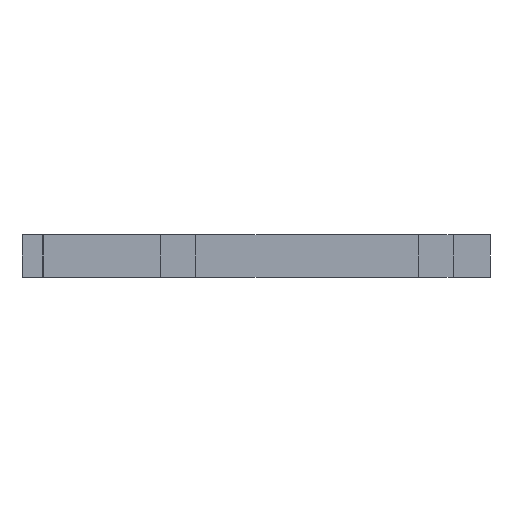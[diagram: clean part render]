
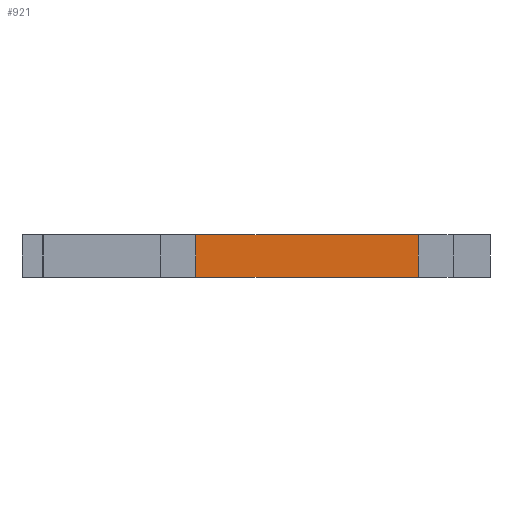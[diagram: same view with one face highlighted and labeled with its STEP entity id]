
A CAD part, left-side view. The second image highlights one B-rep face of the part: STEP entity #921.
In plain terms, the highlighted planar face has unit normal (-1, 0, 0).
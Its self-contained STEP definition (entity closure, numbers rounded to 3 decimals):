
#179 = CARTESIAN_POINT ( 'NONE',  ( -158., -92.3, 0. ) ) ;
#276 = PLANE ( 'NONE',  #1290 ) ;
#331 = VERTEX_POINT ( 'NONE', #1269 ) ;
#374 = ORIENTED_EDGE ( 'NONE', *, *, #1015, .T. ) ;
#395 = VECTOR ( 'NONE', #952, 1000. ) ;
#503 = VERTEX_POINT ( 'NONE', #1012 ) ;
#643 = EDGE_CURVE ( 'NONE', #1725, #886, #872, .T. ) ;
#678 = LINE ( 'NONE', #179, #999 ) ;
#705 = FACE_OUTER_BOUND ( 'NONE', #1644, .T. ) ;
#716 = VECTOR ( 'NONE', #1288, 1000. ) ;
#794 = EDGE_CURVE ( 'NONE', #503, #1725, #981, .T. ) ;
#811 = CARTESIAN_POINT ( 'NONE',  ( -158., -92.3, 10. ) ) ;
#812 = CARTESIAN_POINT ( 'NONE',  ( -158., -92.3, 10. ) ) ;
#840 = CARTESIAN_POINT ( 'NONE',  ( -158., -92.3, 10. ) ) ;
#872 = LINE ( 'NONE', #1600, #1568 ) ;
#881 = LINE ( 'NONE', #1268, #716 ) ;
#886 = VERTEX_POINT ( 'NONE', #1117 ) ;
#921 = ADVANCED_FACE ( 'NONE', ( #705 ), #276, .F. ) ;
#952 = DIRECTION ( 'NONE',  ( 0., -1., 0. ) ) ;
#981 = LINE ( 'NONE', #811, #395 ) ;
#999 = VECTOR ( 'NONE', #1272, 1000. ) ;
#1012 = CARTESIAN_POINT ( 'NONE',  ( -158., -40.5, 10. ) ) ;
#1015 = EDGE_CURVE ( 'NONE', #331, #886, #678, .T. ) ;
#1117 = CARTESIAN_POINT ( 'NONE',  ( -158., -92.3, 0. ) ) ;
#1241 = DIRECTION ( 'NONE',  ( 0., 0., -1. ) ) ;
#1268 = CARTESIAN_POINT ( 'NONE',  ( -158., -40.5, 10. ) ) ;
#1269 = CARTESIAN_POINT ( 'NONE',  ( -158., -40.5, 0. ) ) ;
#1272 = DIRECTION ( 'NONE',  ( 0., -1., 0. ) ) ;
#1288 = DIRECTION ( 'NONE',  ( 0., 0., -1. ) ) ;
#1290 = AXIS2_PLACEMENT_3D ( 'NONE', #840, #1672, #1241 ) ;
#1341 = ORIENTED_EDGE ( 'NONE', *, *, #794, .F. ) ;
#1369 = ORIENTED_EDGE ( 'NONE', *, *, #643, .F. ) ;
#1480 = EDGE_CURVE ( 'NONE', #503, #331, #881, .T. ) ;
#1568 = VECTOR ( 'NONE', #1595, 1000. ) ;
#1595 = DIRECTION ( 'NONE',  ( 0., 0., -1. ) ) ;
#1600 = CARTESIAN_POINT ( 'NONE',  ( -158., -92.3, 10. ) ) ;
#1644 = EDGE_LOOP ( 'NONE', ( #374, #1369, #1341, #1710 ) ) ;
#1672 = DIRECTION ( 'NONE',  ( 1., 0., 0. ) ) ;
#1710 = ORIENTED_EDGE ( 'NONE', *, *, #1480, .T. ) ;
#1725 = VERTEX_POINT ( 'NONE', #812 ) ;
